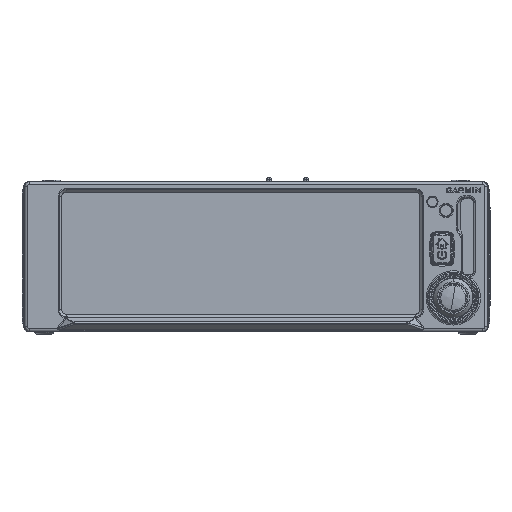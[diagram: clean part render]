
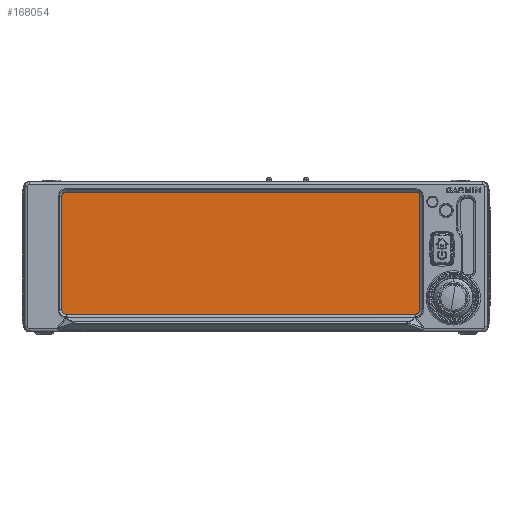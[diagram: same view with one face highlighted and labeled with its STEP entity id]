
A CAD part, top view. The second image highlights one B-rep face of the part: STEP entity #168054.
In plain terms, the highlighted planar face has unit normal (0, 0, 1).
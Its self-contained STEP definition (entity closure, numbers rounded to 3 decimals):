
#1345 = EDGE_CURVE ( 'NONE', #140627, #151097, #86438, .T. ) ;
#2857 = VERTEX_POINT ( 'NONE', #139071 ) ;
#3802 = AXIS2_PLACEMENT_3D ( 'NONE', #39100, #37389, #169444 ) ;
#4214 = CARTESIAN_POINT ( 'NONE',  ( 59.72, 21.33, 4.379 ) ) ;
#7244 = EDGE_LOOP ( 'NONE', ( #170216, #80363, #26580, #119285, #155932, #11503, #169450, #54282 ) ) ;
#9138 = EDGE_CURVE ( 'NONE', #170004, #170448, #45402, .T. ) ;
#11064 = DIRECTION ( 'NONE',  ( 0., 1., 0. ) ) ;
#11252 = CIRCLE ( 'NONE', #78985, 1.5 ) ;
#11503 = ORIENTED_EDGE ( 'NONE', *, *, #13928, .F. ) ;
#13310 = CARTESIAN_POINT ( 'NONE',  ( 61.22, 19.83, 4.379 ) ) ;
#13928 = EDGE_CURVE ( 'NONE', #170448, #63211, #77600, .T. ) ;
#14579 = AXIS2_PLACEMENT_3D ( 'NONE', #135956, #69915, #137080 ) ;
#17348 = DIRECTION ( 'NONE',  ( 1., 0., 0. ) ) ;
#21183 = FACE_OUTER_BOUND ( 'NONE', #7244, .T. ) ;
#21547 = CARTESIAN_POINT ( 'NONE',  ( -61.22, 19.83, 4.379 ) ) ;
#22084 = VECTOR ( 'NONE', #77211, 1000. ) ;
#26431 = LINE ( 'NONE', #156485, #22084 ) ;
#26580 = ORIENTED_EDGE ( 'NONE', *, *, #155353, .F. ) ;
#29106 = CARTESIAN_POINT ( 'NONE',  ( 59.72, 19.83, 4.379 ) ) ;
#29969 = PLANE ( 'NONE',  #14579 ) ;
#36694 = VECTOR ( 'NONE', #95159, 1000. ) ;
#37064 = LINE ( 'NONE', #21547, #169686 ) ;
#37389 = DIRECTION ( 'NONE',  ( 0., 0., -1. ) ) ;
#39100 = CARTESIAN_POINT ( 'NONE',  ( 59.72, -18.83, 4.379 ) ) ;
#45402 = LINE ( 'NONE', #145899, #109753 ) ;
#54282 = ORIENTED_EDGE ( 'NONE', *, *, #126651, .F. ) ;
#54630 = DIRECTION ( 'NONE',  ( 1., 0., 0. ) ) ;
#61318 = CIRCLE ( 'NONE', #130729, 1.5 ) ;
#63211 = VERTEX_POINT ( 'NONE', #146993 ) ;
#69915 = DIRECTION ( 'NONE',  ( 0., 0., 1. ) ) ;
#70334 = CARTESIAN_POINT ( 'NONE',  ( -59.72, -18.83, 4.379 ) ) ;
#77211 = DIRECTION ( 'NONE',  ( -1., 0., 0. ) ) ;
#77600 = CIRCLE ( 'NONE', #3802, 1.5 ) ;
#78985 = AXIS2_PLACEMENT_3D ( 'NONE', #70334, #148490, #95239 ) ;
#79893 = DIRECTION ( 'NONE',  ( 0., -1., 0. ) ) ;
#80363 = ORIENTED_EDGE ( 'NONE', *, *, #166584, .F. ) ;
#81264 = CARTESIAN_POINT ( 'NONE',  ( -59.72, 21.33, 4.379 ) ) ;
#83795 = CARTESIAN_POINT ( 'NONE',  ( 59.72, 21.33, 4.379 ) ) ;
#86438 = LINE ( 'NONE', #4214, #36694 ) ;
#95159 = DIRECTION ( 'NONE',  ( 1., 0., 0. ) ) ;
#95239 = DIRECTION ( 'NONE',  ( 1., 0., 0. ) ) ;
#96712 = CARTESIAN_POINT ( 'NONE',  ( -59.72, 19.83, 4.379 ) ) ;
#101372 = EDGE_CURVE ( 'NONE', #63211, #106320, #26431, .T. ) ;
#101827 = CARTESIAN_POINT ( 'NONE',  ( -61.22, -18.83, 4.379 ) ) ;
#102407 = AXIS2_PLACEMENT_3D ( 'NONE', #29106, #122949, #54630 ) ;
#106260 = VERTEX_POINT ( 'NONE', #101827 ) ;
#106320 = VERTEX_POINT ( 'NONE', #142876 ) ;
#109753 = VECTOR ( 'NONE', #79893, 1000. ) ;
#119285 = ORIENTED_EDGE ( 'NONE', *, *, #158775, .F. ) ;
#122826 = DIRECTION ( 'NONE',  ( 0., 0., -1. ) ) ;
#122949 = DIRECTION ( 'NONE',  ( 0., 0., -1. ) ) ;
#126651 = EDGE_CURVE ( 'NONE', #151097, #170004, #167975, .T. ) ;
#130729 = AXIS2_PLACEMENT_3D ( 'NONE', #96712, #122826, #17348 ) ;
#134769 = CARTESIAN_POINT ( 'NONE',  ( 61.22, -18.83, 4.379 ) ) ;
#135956 = CARTESIAN_POINT ( 'NONE',  ( 0., 0., 4.379 ) ) ;
#137080 = DIRECTION ( 'NONE',  ( 1., 0., 0. ) ) ;
#139071 = CARTESIAN_POINT ( 'NONE',  ( -61.22, 19.83, 4.379 ) ) ;
#140627 = VERTEX_POINT ( 'NONE', #81264 ) ;
#142876 = CARTESIAN_POINT ( 'NONE',  ( -59.72, -20.33, 4.379 ) ) ;
#145899 = CARTESIAN_POINT ( 'NONE',  ( 61.22, -18.83, 4.379 ) ) ;
#146993 = CARTESIAN_POINT ( 'NONE',  ( 59.72, -20.33, 4.379 ) ) ;
#148490 = DIRECTION ( 'NONE',  ( 0., 0., -1. ) ) ;
#151097 = VERTEX_POINT ( 'NONE', #83795 ) ;
#155353 = EDGE_CURVE ( 'NONE', #106260, #2857, #37064, .T. ) ;
#155932 = ORIENTED_EDGE ( 'NONE', *, *, #101372, .F. ) ;
#156485 = CARTESIAN_POINT ( 'NONE',  ( -59.72, -20.33, 4.379 ) ) ;
#158775 = EDGE_CURVE ( 'NONE', #106320, #106260, #11252, .T. ) ;
#166584 = EDGE_CURVE ( 'NONE', #2857, #140627, #61318, .T. ) ;
#167975 = CIRCLE ( 'NONE', #102407, 1.5 ) ;
#168054 = ADVANCED_FACE ( 'NONE', ( #21183 ), #29969, .T. ) ;
#169444 = DIRECTION ( 'NONE',  ( 1., 0., 0. ) ) ;
#169450 = ORIENTED_EDGE ( 'NONE', *, *, #9138, .F. ) ;
#169686 = VECTOR ( 'NONE', #11064, 1000. ) ;
#170004 = VERTEX_POINT ( 'NONE', #13310 ) ;
#170216 = ORIENTED_EDGE ( 'NONE', *, *, #1345, .F. ) ;
#170448 = VERTEX_POINT ( 'NONE', #134769 ) ;
